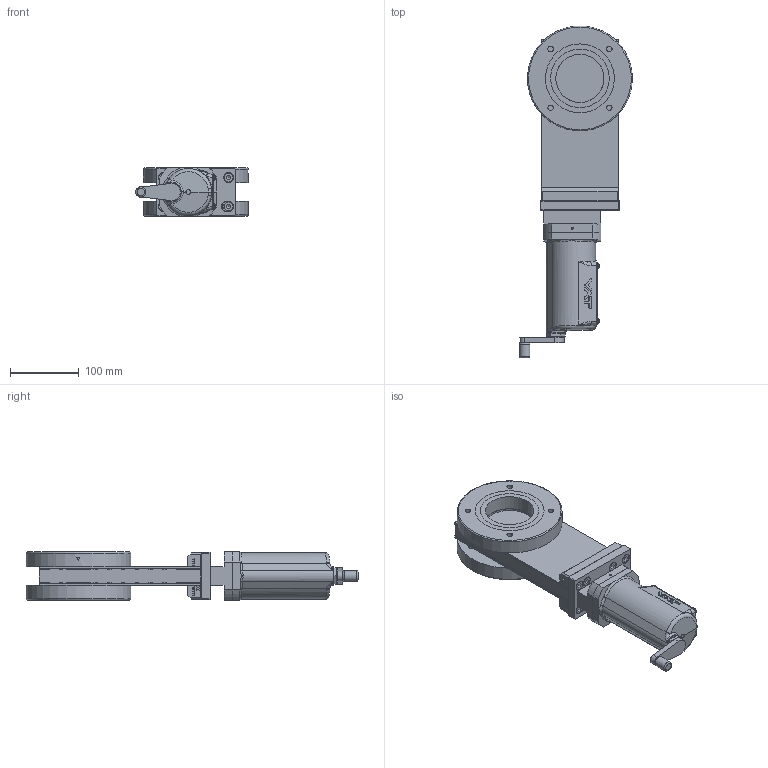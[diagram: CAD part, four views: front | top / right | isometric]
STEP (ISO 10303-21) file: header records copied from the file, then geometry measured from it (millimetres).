
FILE_DESCRIPTION(/* description */ (''),/* implementation_level */ '2;1');
FILE_NAME(/* name */ '1386284944_203.stp',/* time_stamp */ '2016-01-11T10:30:39+01:00',/* author */ (''),/* organization */ (''),/* preprocessor_version */ 'ST-DEVELOPER v15',/* originating_system */ 'SIEMENS PLM Software NX 9.0',/* authorisation */ '');
FILE_SCHEMA (('AP203_CONFIGURATION_CONTROLLED_3D_DESIGN_OF_MECHANICAL_PARTS_AND_ASSEMBLIES_MIM_LF { 1 0 10303 403 2 1 2}'));
Length unit declared in the file: millimetre
Products named in the file (27): 441451_24137ID; 21436-01.1_24150ID; 21437-01.1_24149ID; 21438-01.1; 441451_24146ID; 21437-01.1_24145ID; 21436-01.1_24139ID; N-6024-538.1; 404139; 82480-R1_1.2; 78964-01_01.1; 79149-01.1; 79148-01.1; 69127.1; 72872-01.1; 49261-01_24141ID; 49261-01; n-6099-454.1; 63215-01.1; 218198.1; 790428; 439016; 82480-r1.3; 82467-r1.1; 22974-r1.2_MODEL; 57398-r1.2_MODEL; 231223.4
Assembly tree (37 placements, depth 4):
  231223.4
    57398-r1.2_MODEL
      n-6099-454.1  x2
      49261-01
      49261-01_24141ID
      22974-r1.2_MODEL
        21436-01.1_24139ID
        21437-01.1_24145ID
        441451_24146ID
        21438-01.1
        21437-01.1_24149ID
        21436-01.1_24150ID
        441451_24137ID
    790428
    82467-r1.1
      72872-01.1
      69127.1
    82480-r1.3
      79148-01.1
      79149-01.1
      78964-01_01.1
      82480-R1_1.2
    218198.1  x8
    439016
      404139
      N-6024-538.1  x4
    63215-01.1
Bounding box: 163.78 x 482.25 x 70 mm (x, y, z)
Volume: 1435517.4 mm3; surface area: 413479.5 mm2
Topology: 108 solids, 108 shells, 1055 faces, 2406 edges, 1615 vertices
Faces by surface type: plane 782, cylinder 193, cone 49, bspline 22, torus 5, sphere 4
Full cylindrical faces by diameter (mm): 2.8 x2, 3 x1, 4 x10, 4.3 x4, 4.35 x2, 4.625 x4, 5 x1, 6.66 x8, 6.7 x8, 6.8 x12, 7 x1, 7.938 x8, 8 x20, 9 x8, 13 x8, 14.1 x5, 15 x1, 20 x1, 28 x1, 59.975 x1, 60 x1, 70.1 x4, 84.25 x3, 152.4 x2
Entity records: 30097 total; most frequent: CARTESIAN_POINT 6576, ORIENTED_EDGE 3726, DIRECTION 3618, EDGE_CURVE 1863, VERTEX_POINT 1333, AXIS2_PLACEMENT_3D 1225, LINE 1168, VECTOR 1168
